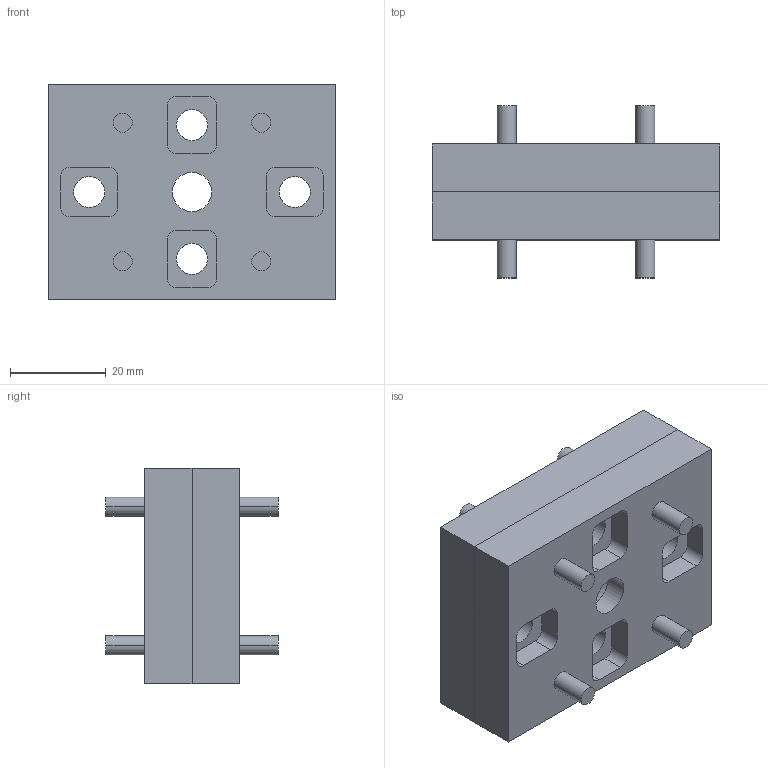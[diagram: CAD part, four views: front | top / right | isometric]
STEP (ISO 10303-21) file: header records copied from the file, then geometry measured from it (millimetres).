
FILE_DESCRIPTION((''),'2;1');
FILE_NAME('GIF0202_ASM','2002-12-27T',('Lipro doo'),('Lipro d.o.o.'),'PRO/ENGINEER BY PARAMETRIC TECHNOLOGY CORPORATION, 2001150','PRO/ENGINEER BY PARAMETRIC TECHNOLOGY CORPORATION, 2001150','');
FILE_SCHEMA(('CONFIG_CONTROL_DESIGN'));
Length unit declared in the file: millimetre
Products named in the file (3): GIF0200; GIF0100_3; GIF0202_ASM
Assembly tree (10 placements, depth 2):
  GIF0202_ASM
    GIF0200  x2
    GIF0100_3  x8
Bounding box: 60 x 36 x 45 mm (x, y, z)
Volume: 46446.4 mm3; surface area: 20017.4 mm2
Topology: 10 solids, 10 shells, 178 faces, 408 edges, 272 vertices
Faces by surface type: cylinder 96, plane 82
Entity records: 2461 total; most frequent: DIRECTION 450, CARTESIAN_POINT 400, ORIENTED_EDGE 372, EDGE_CURVE 186, AXIS2_PLACEMENT_3D 174, VERTEX_POINT 124, VECTOR 102, LINE 102
